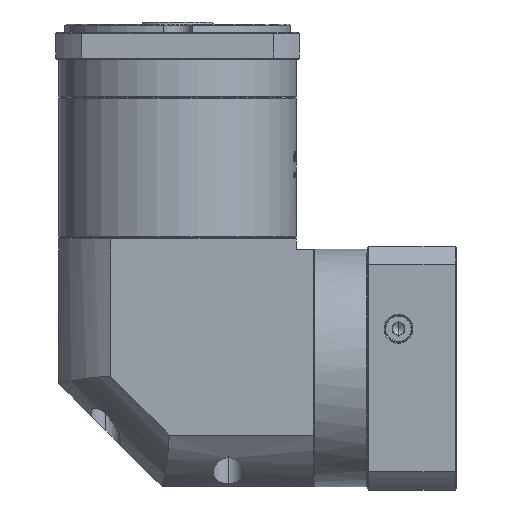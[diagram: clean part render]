
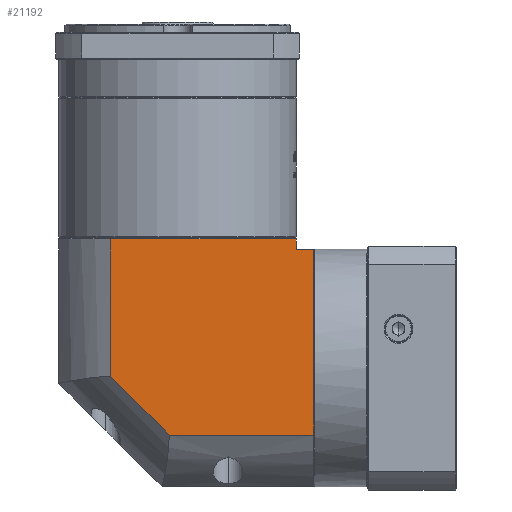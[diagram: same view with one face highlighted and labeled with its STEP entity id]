
A CAD part, left-side view. The second image highlights one B-rep face of the part: STEP entity #21192.
In plain terms, the highlighted planar face has unit normal (-1, 0, 0).
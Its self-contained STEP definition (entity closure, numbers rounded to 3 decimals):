
#1493 = DIRECTION ( 'NONE',  ( 0., 1., 0. ) ) ;
#3308 = LINE ( 'NONE', #14769, #159825 ) ;
#7136 = LINE ( 'NONE', #66662, #15135 ) ;
#14769 = CARTESIAN_POINT ( 'NONE',  ( -248.495, -96.921, 99.88 ) ) ;
#15135 = VECTOR ( 'NONE', #141519, 1000. ) ;
#16652 = VERTEX_POINT ( 'NONE', #154153 ) ;
#19244 = CARTESIAN_POINT ( 'NONE',  ( -248.495, -7.022, 111.38 ) ) ;
#20081 = DIRECTION ( 'NONE',  ( 1., 0., 0. ) ) ;
#20867 = FACE_OUTER_BOUND ( 'NONE', #116227, .T. ) ;
#21192 = ADVANCED_FACE ( 'NONE', ( #20867 ), #45174, .F. ) ;
#26160 = AXIS2_PLACEMENT_3D ( 'NONE', #82807, #20081, #108764 ) ;
#30230 = CARTESIAN_POINT ( 'NONE',  ( -248.495, -96.921, 99.88 ) ) ;
#31563 = VECTOR ( 'NONE', #85580, 1000. ) ;
#33075 = ORIENTED_EDGE ( 'NONE', *, *, #90584, .T. ) ;
#33134 = DIRECTION ( 'NONE',  ( 0., 0.707, 0.707 ) ) ;
#33268 = LINE ( 'NONE', #116720, #60969 ) ;
#34581 = VERTEX_POINT ( 'NONE', #103965 ) ;
#45174 = PLANE ( 'NONE',  #26160 ) ;
#54640 = ORIENTED_EDGE ( 'NONE', *, *, #70082, .F. ) ;
#56897 = ORIENTED_EDGE ( 'NONE', *, *, #110691, .F. ) ;
#60969 = VECTOR ( 'NONE', #66844, 1000. ) ;
#62034 = VECTOR ( 'NONE', #133075, 1000. ) ;
#66662 = CARTESIAN_POINT ( 'NONE',  ( -248.495, 18.079, 104.88 ) ) ;
#66729 = ORIENTED_EDGE ( 'NONE', *, *, #138220, .F. ) ;
#66844 = DIRECTION ( 'NONE',  ( 0., 1., 0. ) ) ;
#70082 = EDGE_CURVE ( 'NONE', #16652, #75653, #132723, .T. ) ;
#70285 = ORIENTED_EDGE ( 'NONE', *, *, #74627, .T. ) ;
#71155 = VERTEX_POINT ( 'NONE', #30230 ) ;
#73188 = LINE ( 'NONE', #161289, #31563 ) ;
#74627 = EDGE_CURVE ( 'NONE', #34581, #71155, #3308, .T. ) ;
#75653 = VERTEX_POINT ( 'NONE', #78202 ) ;
#78202 = CARTESIAN_POINT ( 'NONE',  ( -248.495, -7.022, 104.88 ) ) ;
#78692 = CARTESIAN_POINT ( 'NONE',  ( -248.495, -35.36, 9.98 ) ) ;
#79643 = VERTEX_POINT ( 'NONE', #78692 ) ;
#81124 = VECTOR ( 'NONE', #146701, 1000. ) ;
#82807 = CARTESIAN_POINT ( 'NONE',  ( -248.495, 18.079, 111.38 ) ) ;
#85580 = DIRECTION ( 'NONE',  ( 0., 0., 1. ) ) ;
#90584 = EDGE_CURVE ( 'NONE', #71155, #97108, #73188, .T. ) ;
#97108 = VERTEX_POINT ( 'NONE', #112802 ) ;
#103965 = CARTESIAN_POINT ( 'NONE',  ( -248.495, -105.321, 99.88 ) ) ;
#106135 = LINE ( 'NONE', #120746, #110180 ) ;
#106670 = ORIENTED_EDGE ( 'NONE', *, *, #156239, .F. ) ;
#108764 = DIRECTION ( 'NONE',  ( 0., 1., 0. ) ) ;
#110180 = VECTOR ( 'NONE', #33134, 1000. ) ;
#110691 = EDGE_CURVE ( 'NONE', #34581, #158859, #123656, .T. ) ;
#112802 = CARTESIAN_POINT ( 'NONE',  ( -248.495, -96.921, 104.88 ) ) ;
#116227 = EDGE_LOOP ( 'NONE', ( #54640, #158643, #106670, #56897, #70285, #33075, #66729 ) ) ;
#116720 = CARTESIAN_POINT ( 'NONE',  ( -248.495, 18.079, 9.98 ) ) ;
#119722 = CARTESIAN_POINT ( 'NONE',  ( -248.495, -105.321, 111.38 ) ) ;
#120746 = CARTESIAN_POINT ( 'NONE',  ( -248.495, -35.36, 9.98 ) ) ;
#123656 = LINE ( 'NONE', #119722, #62034 ) ;
#132723 = LINE ( 'NONE', #19244, #81124 ) ;
#133075 = DIRECTION ( 'NONE',  ( 0., 0., -1. ) ) ;
#138220 = EDGE_CURVE ( 'NONE', #75653, #97108, #7136, .T. ) ;
#141519 = DIRECTION ( 'NONE',  ( 0., -1., 0. ) ) ;
#146701 = DIRECTION ( 'NONE',  ( 0., 0., 1. ) ) ;
#150109 = EDGE_CURVE ( 'NONE', #79643, #16652, #106135, .T. ) ;
#154153 = CARTESIAN_POINT ( 'NONE',  ( -248.495, -7.022, 38.319 ) ) ;
#154888 = CARTESIAN_POINT ( 'NONE',  ( -248.495, -105.321, 9.98 ) ) ;
#156239 = EDGE_CURVE ( 'NONE', #158859, #79643, #33268, .T. ) ;
#158643 = ORIENTED_EDGE ( 'NONE', *, *, #150109, .F. ) ;
#158859 = VERTEX_POINT ( 'NONE', #154888 ) ;
#159825 = VECTOR ( 'NONE', #1493, 1000. ) ;
#161289 = CARTESIAN_POINT ( 'NONE',  ( -248.495, -96.921, -15.12 ) ) ;
